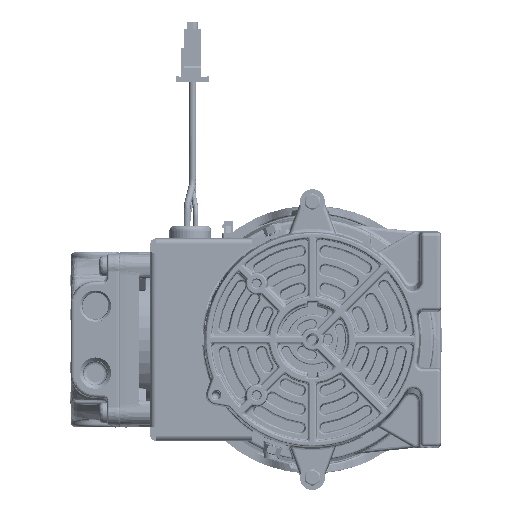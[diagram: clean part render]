
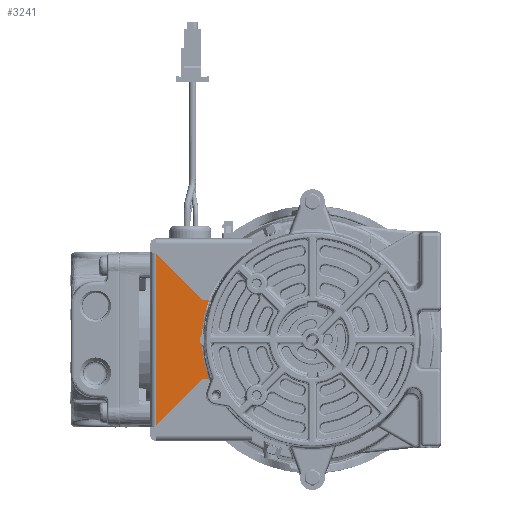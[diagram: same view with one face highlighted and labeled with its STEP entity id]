
A CAD part, left-side view. The second image highlights one B-rep face of the part: STEP entity #3241.
In plain terms, the highlighted planar face has unit normal (-1, 0, 0).
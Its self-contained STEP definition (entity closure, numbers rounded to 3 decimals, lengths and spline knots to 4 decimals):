
#1139 = CIRCLE ( 'NONE', #13272, 2. ) ;
#3241 = ADVANCED_FACE ( 'NONE', ( #269854 ), #66219, .F. ) ;
#4853 = DIRECTION ( 'NONE',  ( 0., 0.707, -0.707 ) ) ;
#11693 = LINE ( 'NONE', #15430, #229071 ) ;
#11960 = EDGE_CURVE ( 'NONE', #213293, #297965, #11693, .T. ) ;
#12412 = DIRECTION ( 'NONE',  ( 0., -1., 0. ) ) ;
#13272 = AXIS2_PLACEMENT_3D ( 'NONE', #36839, #353554, #44278 ) ;
#15430 = CARTESIAN_POINT ( 'NONE',  ( -4.1054, 2.8094, 0. ) ) ;
#29081 = VECTOR ( 'NONE', #137968, 39.3701 ) ;
#36839 = CARTESIAN_POINT ( 'NONE',  ( -4.1054, -0.0176, 0. ) ) ;
#36849 = LINE ( 'NONE', #234825, #185286 ) ;
#39841 = DIRECTION ( 'NONE',  ( 1., 0., 0. ) ) ;
#44278 = DIRECTION ( 'NONE',  ( 0., 0., -1. ) ) ;
#44486 = CARTESIAN_POINT ( 'NONE',  ( -4.1054, 1.9675, 0.7027 ) ) ;
#46240 = CARTESIAN_POINT ( 'NONE',  ( -4.1054, -0.0176, 0.7027 ) ) ;
#58610 = EDGE_CURVE ( 'NONE', #266512, #349508, #107793, .T. ) ;
#58936 = CARTESIAN_POINT ( 'NONE',  ( -4.1054, 2.8094, 1.5446 ) ) ;
#63589 = CARTESIAN_POINT ( 'NONE',  ( -4.1054, 2.8094, 1.5446 ) ) ;
#66219 = PLANE ( 'NONE',  #197115 ) ;
#70275 = EDGE_CURVE ( 'NONE', #266512, #186097, #1139, .T. ) ;
#81300 = ORIENTED_EDGE ( 'NONE', *, *, #268238, .F. ) ;
#85041 = VECTOR ( 'NONE', #12412, 39.3701 ) ;
#85428 = ORIENTED_EDGE ( 'NONE', *, *, #11960, .F. ) ;
#86311 = DIRECTION ( 'NONE',  ( 0., -0.707, -0.707 ) ) ;
#95482 = ORIENTED_EDGE ( 'NONE', *, *, #118093, .F. ) ;
#100573 = VERTEX_POINT ( 'NONE', #44486 ) ;
#107793 = LINE ( 'NONE', #334132, #29081 ) ;
#118093 = EDGE_CURVE ( 'NONE', #349508, #213293, #36849, .T. ) ;
#128449 = DIRECTION ( 'NONE',  ( 0., 0., -1. ) ) ;
#137968 = DIRECTION ( 'NONE',  ( 0., 1., 0. ) ) ;
#167607 = EDGE_LOOP ( 'NONE', ( #95482, #360215, #231201, #343641, #81300, #85428 ) ) ;
#169135 = CARTESIAN_POINT ( 'NONE',  ( -4.1054, 1.9675, -0.7027 ) ) ;
#185286 = VECTOR ( 'NONE', #4853, 39.3701 ) ;
#186097 = VERTEX_POINT ( 'NONE', #322570 ) ;
#197115 = AXIS2_PLACEMENT_3D ( 'NONE', #217046, #39841, #128449 ) ;
#213293 = VERTEX_POINT ( 'NONE', #287366 ) ;
#217046 = CARTESIAN_POINT ( 'NONE',  ( -4.1054, -0.0176, 0. ) ) ;
#229071 = VECTOR ( 'NONE', #245404, 39.3701 ) ;
#231201 = ORIENTED_EDGE ( 'NONE', *, *, #70275, .T. ) ;
#231520 = LINE ( 'NONE', #63589, #351272 ) ;
#234825 = CARTESIAN_POINT ( 'NONE',  ( -4.1054, 1.9675, -0.7027 ) ) ;
#245404 = DIRECTION ( 'NONE',  ( 0., 0., 1. ) ) ;
#266512 = VERTEX_POINT ( 'NONE', #317319 ) ;
#268238 = EDGE_CURVE ( 'NONE', #297965, #100573, #231520, .T. ) ;
#269854 = FACE_OUTER_BOUND ( 'NONE', #167607, .T. ) ;
#270674 = LINE ( 'NONE', #46240, #85041 ) ;
#287366 = CARTESIAN_POINT ( 'NONE',  ( -4.1054, 2.8094, -1.5446 ) ) ;
#297965 = VERTEX_POINT ( 'NONE', #58936 ) ;
#317319 = CARTESIAN_POINT ( 'NONE',  ( -4.1054, 1.8549, -0.7027 ) ) ;
#322570 = CARTESIAN_POINT ( 'NONE',  ( -4.1054, 1.8549, 0.7027 ) ) ;
#334132 = CARTESIAN_POINT ( 'NONE',  ( -4.1054, -0.0176, -0.7027 ) ) ;
#343641 = ORIENTED_EDGE ( 'NONE', *, *, #370124, .F. ) ;
#349508 = VERTEX_POINT ( 'NONE', #169135 ) ;
#351272 = VECTOR ( 'NONE', #86311, 39.3701 ) ;
#353554 = DIRECTION ( 'NONE',  ( 1., 0., 0. ) ) ;
#360215 = ORIENTED_EDGE ( 'NONE', *, *, #58610, .F. ) ;
#370124 = EDGE_CURVE ( 'NONE', #100573, #186097, #270674, .T. ) ;
